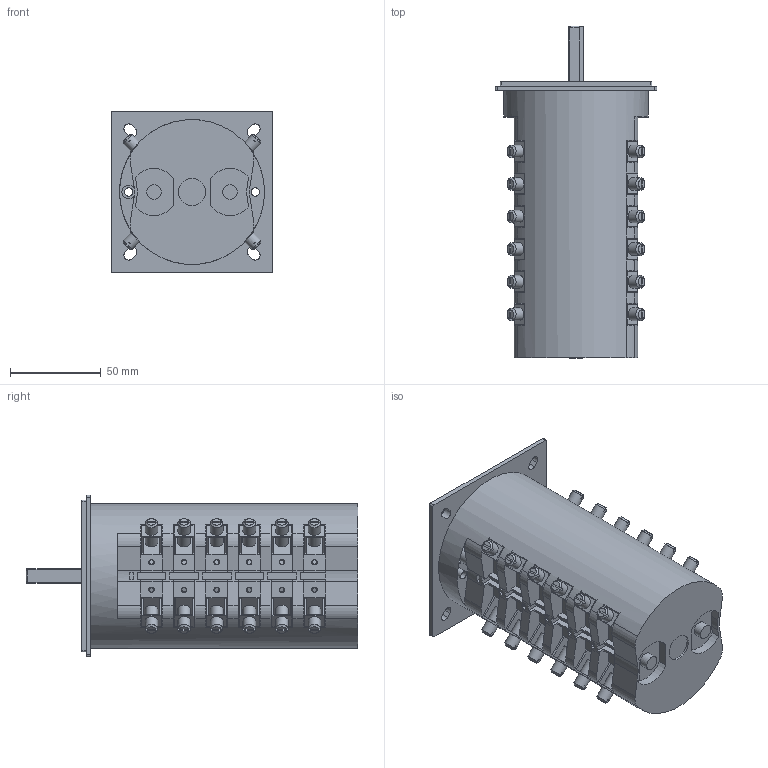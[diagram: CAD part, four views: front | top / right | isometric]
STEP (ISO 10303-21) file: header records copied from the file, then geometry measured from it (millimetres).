
FILE_DESCRIPTION(/* description */ (''),/* implementation_level */ '2;1');
FILE_NAME(/* name */ '4G80-U_6_korpusow.stp',/* time_stamp */ '2021-07-22T07:17:50+02:00',/* author */ (''),/* organization */ (''),/* preprocessor_version */ 'ST-DEVELOPER v18.1',/* originating_system */ 'SIEMENS PLM Software NX 1965',/* authorisation */ '');
FILE_SCHEMA (('AUTOMOTIVE_DESIGN { 1 0 10303 214 3 1 1 1 }'));
Length unit declared in the file: millimetre
Products named in the file (1): 4G80-U_6_korpusow_stp
Bounding box: 89.2 x 183.25 x 89.2 mm (x, y, z)
Volume: 630941.9 mm3; surface area: 122343 mm2
Topology: 1 solids, 41 shells, 1171 faces, 3014 edges, 2009 vertices
Faces by surface type: plane 844, cylinder 252, cone 72, bspline 3
Full cylindrical faces by diameter (mm): 2.5 x24, 4.5 x2, 7 x48, 7.5 x2, 8 x4, 8.5 x2, 11.6 x2, 12 x3, 15 x1, 80 x1
Entity records: 36106 total; most frequent: CARTESIAN_POINT 8187, DIRECTION 5641, ORIENTED_EDGE 5618, EDGE_CURVE 2809, LINE 2011, VECTOR 2011, VERTEX_POINT 1926, AXIS2_PLACEMENT_3D 1815
